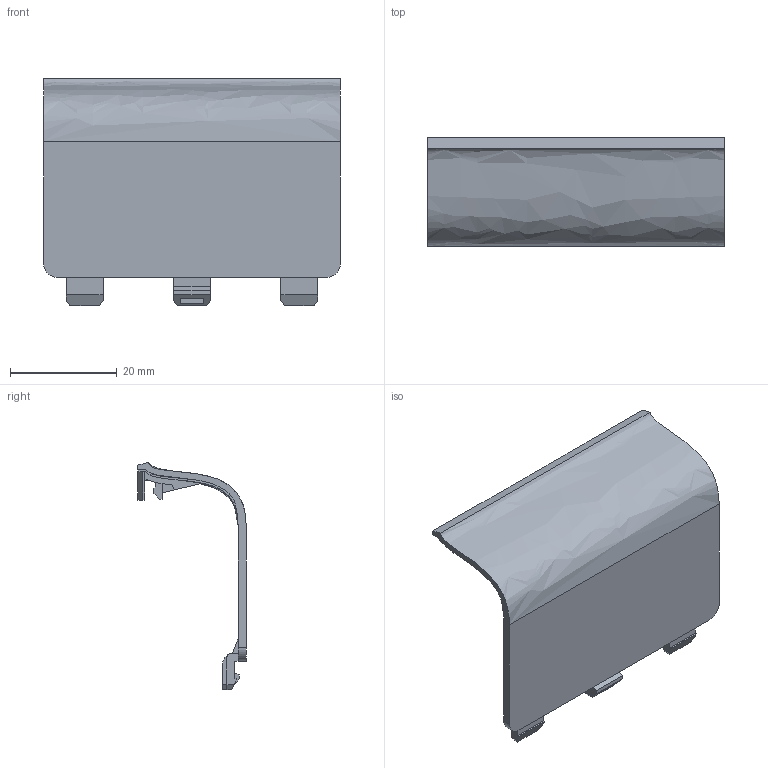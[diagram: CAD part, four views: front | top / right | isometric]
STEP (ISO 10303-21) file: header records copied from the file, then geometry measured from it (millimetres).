
FILE_DESCRIPTION( ( '' ), ' ' );
FILE_NAME( '/vol/tmp/translate-16873833509327698935/5e1792da60c0bb157a8b7431.step', '2020-01-09T20:53:46', ( '' ), ( '' ), ' ', ' ', ' ' );
FILE_SCHEMA( ( 'AUTOMOTIVE_DESIGN { 1 0 10303 214 1 1 1 1 }' ) );
Length unit declared in the file: metre
Products named in the file (1): Battery Cover
Bounding box: 55.58 x 20.32 x 42.57 mm (x, y, z)
Volume: 4647.7 mm3; surface area: 6629.7 mm2
Topology: 1 solids, 1 shells, 119 faces, 344 edges, 228 vertices
Faces by surface type: plane 102, cylinder 11, extrusion 5, offset 1
Entity records: 5227 total; most frequent: CARTESIAN_POINT 1166, ORIENTED_EDGE 688, DIRECTION 568, EDGE_CURVE 344, VECTOR 296, LINE 290, VERTEX_POINT 228, AXIS2_PLACEMENT_3D 136
